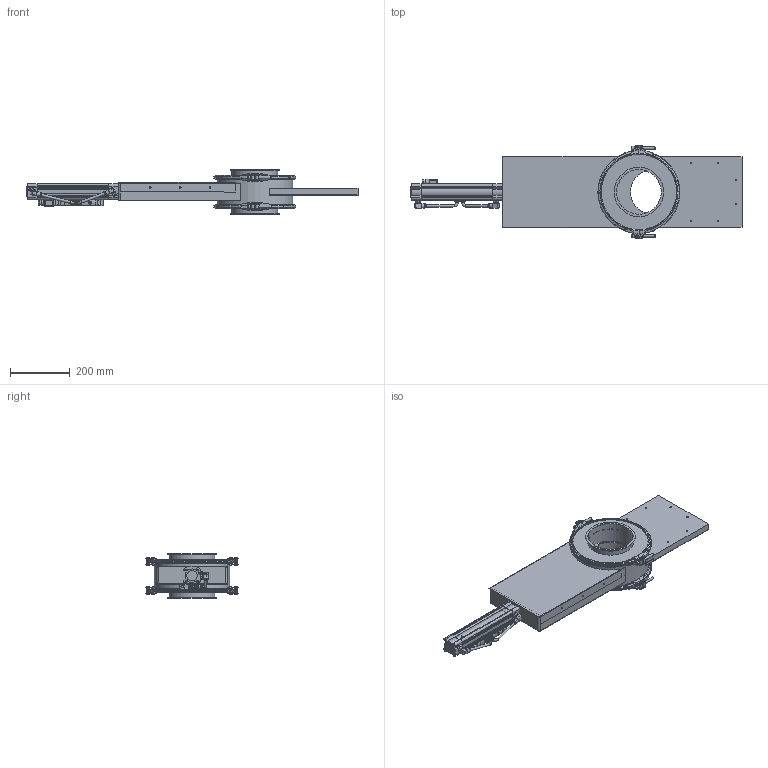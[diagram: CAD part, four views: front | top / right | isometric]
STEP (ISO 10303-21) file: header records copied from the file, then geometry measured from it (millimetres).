
FILE_DESCRIPTION((''),'2;1');
FILE_NAME('U:\Wolfgang\Marcel-3D\fertig\Kapitel 9\1521093.stp','2011-10-11T12:55:23',('iwienholt'),(''),'Autodesk Inventor 2010','Autodesk Inventor 2010','');
FILE_SCHEMA(('AUTOMOTIVE_DESIGN { 1 0 10303 214 1 1 1 1 }'));
Length unit declared in the file: millimetre
Products named in the file (25): 1521093; Einheit DN150; 2522055; 2522055-1; Verschluss b=274; Verschlussrolle; VerschlussrolleGewinde; ISO 4762 M8 x 70; 2522055-Dichtmasse; P.Schibereinheit DN150; 532744_DNCB_40_200_PPV_A_6_0; 532744_DNCB_40_200_PPV_A_6_01; 532744_DNCB_40_200_PPV_A_6_02; 537600_VUVB_S_B42_ZD_Q8_3AC1_6_0; 537600_VUVB_S_B42_ZD_Q8_3AC1_6_01; 537600_VUVB_S_B42_ZD_Q8_3AC1_6_02; 537600_VUVB_S_B42_ZD_Q8_3AC1_6_03; 4527_MSFG_24_42_50_60_6_0; 4527_MSFG_24_42_50_60_6_01; 4527_MSFG_24_42_50_60_6_02; 153414_QSRL_1_4_8_6_0; schlauch2; schlauch; 13570_CRSG_M12x125_6_0; P.Schieber DN150
Assembly tree (33 placements, depth 4):
  1521093
    Einheit DN150
    2522055  x2
      2522055-1
      Verschluss b=274
      Verschlussrolle
      VerschlussrolleGewinde
      ISO 4762 M8 x 70
      2522055-Dichtmasse
    P.Schibereinheit DN150
      532744_DNCB_40_200_PPV_A_6_0
        532744_DNCB_40_200_PPV_A_6_01
        532744_DNCB_40_200_PPV_A_6_02
      537600_VUVB_S_B42_ZD_Q8_3AC1_6_0
        537600_VUVB_S_B42_ZD_Q8_3AC1_6_01
        537600_VUVB_S_B42_ZD_Q8_3AC1_6_02
        537600_VUVB_S_B42_ZD_Q8_3AC1_6_03
      4527_MSFG_24_42_50_60_6_0
        4527_MSFG_24_42_50_60_6_01
        4527_MSFG_24_42_50_60_6_02
      153414_QSRL_1_4_8_6_0  x2
      schlauch2
      schlauch
      13570_CRSG_M12x125_6_0
      P.Schieber DN150
Bounding box: 1108.19 x 307.99 x 150 mm (x, y, z)
Volume: 3706330.6 mm3; surface area: 1643514.1 mm2
Topology: 40 solids, 40 shells, 1794 faces, 4594 edges, 2987 vertices
Faces by surface type: plane 751, cylinder 573, cone 228, bspline 200, torus 42
Full cylindrical faces by diameter (mm): 1 x3, 2.459 x1, 3 x2, 3.5 x1, 4 x1, 4.5 x1, 4.917 x8, 5 x21, 5.471 x2, 5.5 x1, 6 x21, 7.188 x1, 8 x29, 8.05 x1, 9 x1, 9.6 x2, 9.653 x1, 10.15 x2, 11.2 x2, 11.445 x2, 12 x12, 13 x4, 13.05 x2, 13.157 x2, 14 x6, 14.4 x4, 14.5 x2, 14.7 x6, 15.1 x2, 15.2 x1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
Entity records: 33078 total; most frequent: CARTESIAN_POINT 7651, DIRECTION 5296, ORIENTED_EDGE 4752, EDGE_CURVE 2376, AXIS2_PLACEMENT_3D 1988, VERTEX_POINT 1649, EDGE_LOOP 1429, VECTOR 1320
